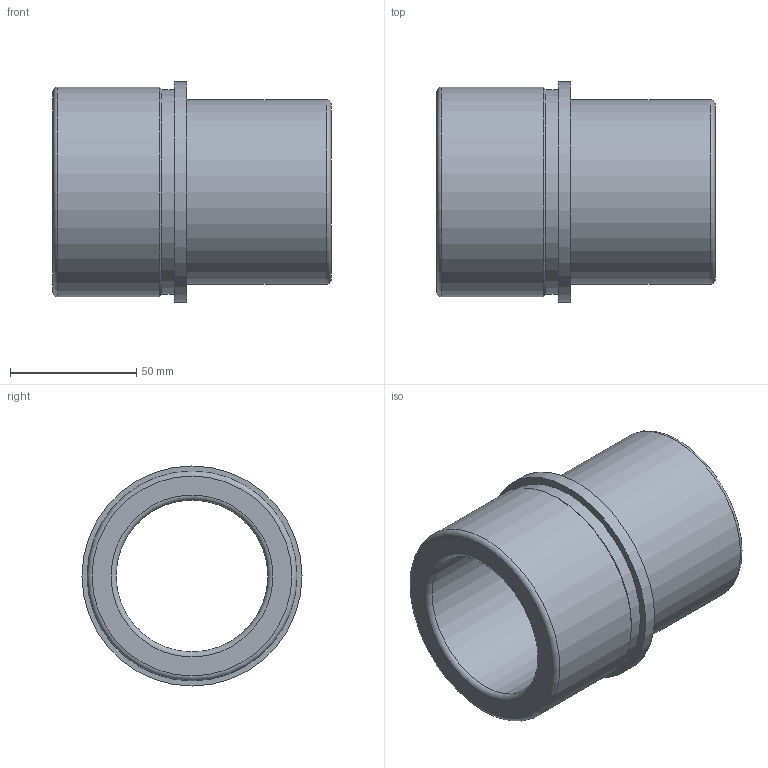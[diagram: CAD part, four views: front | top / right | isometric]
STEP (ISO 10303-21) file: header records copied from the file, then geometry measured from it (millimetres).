
FILE_DESCRIPTION( ( 'STEP AP214' ), '1' );
FILE_NAME( 'p:/temp/worker_57/temp/exporttempdir_5292_70_V89XE/format_2/WZ - 4053 50 x 110 - 60.stp', '2020-12-06T13:45:26', ( 'License CC BY-ND 4.0' ), ( 'CADENAS' ), ' ', 'PARTsolutions', ' ' );
FILE_SCHEMA( ( 'AUTOMOTIVE_DESIGN { 1 0 10303 214 1 1 1 1 }' ) );
Length unit declared in the file: millimetre
Products named in the file (1): _WZ - 4053 50 x 110 - 60
Bounding box: 110 x 87 x 87 mm (x, y, z)
Volume: 214820.3 mm3; surface area: 53509.3 mm2
Topology: 1 solids, 1 shells, 14 faces, 24 edges, 14 vertices
Faces by surface type: cylinder 5, plane 4, torus 4, cone 1
Full cylindrical faces by diameter (mm): 60 x1, 73 x1, 81 x1, 83 x1, 87 x1
Entity records: 416 total; most frequent: DIRECTION 58, CARTESIAN_POINT 43, AXIS2_PLACEMENT_3D 29, EDGE_LOOP 28, ORIENTED_EDGE 28, FACE_OUTER_BOUND 23, STYLED_ITEM 14, PRESENTATION_STYLE_ASSIGNMENT 14
